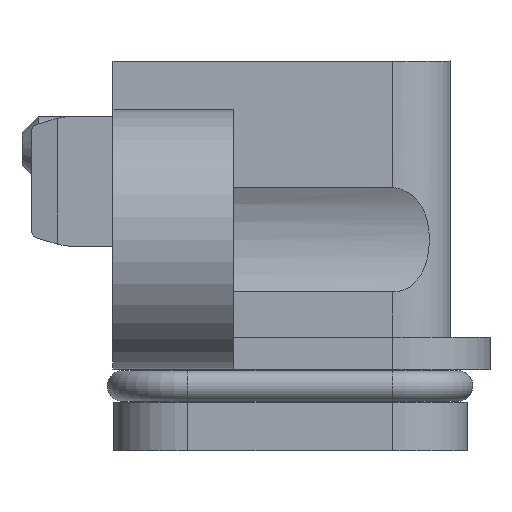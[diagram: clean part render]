
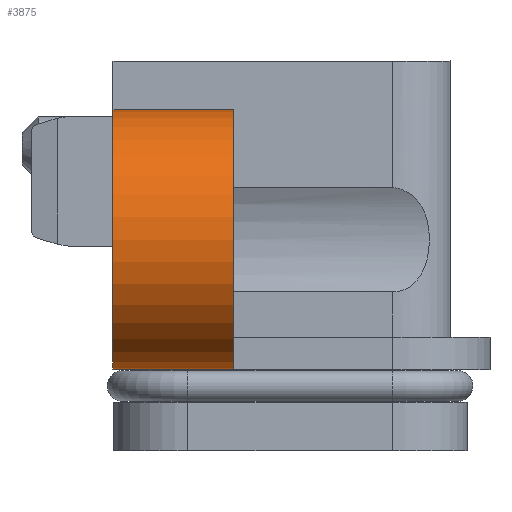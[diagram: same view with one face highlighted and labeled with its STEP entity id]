
A CAD part, front view. The second image highlights one B-rep face of the part: STEP entity #3875.
In plain terms, the highlighted cylindrical face has radius 4 mm (diameter 8 mm), a partial arc.
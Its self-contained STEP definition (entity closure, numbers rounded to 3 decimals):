
#1662=CYLINDRICAL_SURFACE('',#33708,4.);
#2025=CIRCLE('',#33705,4.);
#2026=CIRCLE('',#33707,4.);
#3875=ADVANCED_FACE('',(#6472),#1662,.T.);
#6472=FACE_OUTER_BOUND('',#8265,.T.);
#8265=EDGE_LOOP('',(#17210,#17211,#17212,#17213));
#17210=ORIENTED_EDGE('',*,*,#24729,.F.);
#17211=ORIENTED_EDGE('',*,*,#24704,.F.);
#17212=ORIENTED_EDGE('',*,*,#24728,.F.);
#17213=ORIENTED_EDGE('',*,*,#24730,.F.);
#20224=VERTEX_POINT('',#55821);
#20225=VERTEX_POINT('',#55823);
#20239=VERTEX_POINT('',#55869);
#20240=VERTEX_POINT('',#55873);
#24704=EDGE_CURVE('',#20224,#20225,#27891,.T.);
#24728=EDGE_CURVE('',#20239,#20224,#2025,.T.);
#24729=EDGE_CURVE('',#20225,#20240,#2026,.T.);
#24730=EDGE_CURVE('',#20240,#20239,#27908,.T.);
#27891=LINE('',#55822,#31100);
#27908=LINE('',#55874,#31117);
#31100=VECTOR('',#42006,1.);
#31117=VECTOR('',#42061,1.);
#33705=AXIS2_PLACEMENT_3D('',#55870,#42055,#42056);
#33707=AXIS2_PLACEMENT_3D('',#55872,#42059,#42060);
#33708=AXIS2_PLACEMENT_3D('',#55875,#42062,#42063);
#42006=DIRECTION('',(1.,0.,0.));
#42055=DIRECTION('',(-1.,0.,0.));
#42056=DIRECTION('',(0.,-1.,0.));
#42059=DIRECTION('',(1.,0.,0.));
#42060=DIRECTION('',(0.,1.,0.));
#42061=DIRECTION('',(-1.,0.,0.));
#42062=DIRECTION('',(-1.,0.,0.));
#42063=DIRECTION('',(0.,1.,0.));
#55821=CARTESIAN_POINT('',(-4.4,-21.5,4.525));
#55822=CARTESIAN_POINT('',(-2.55,-21.5,4.525));
#55823=CARTESIAN_POINT('',(-0.7,-21.5,4.525));
#55869=CARTESIAN_POINT('',(-4.4,-21.5,-3.475));
#55870=CARTESIAN_POINT('',(-4.4,-21.5,0.525));
#55872=CARTESIAN_POINT('',(-0.7,-21.5,0.525));
#55873=CARTESIAN_POINT('',(-0.7,-21.5,-3.475));
#55874=CARTESIAN_POINT('',(-2.55,-21.5,-3.475));
#55875=CARTESIAN_POINT('',(-2.55,-21.5,0.525));
